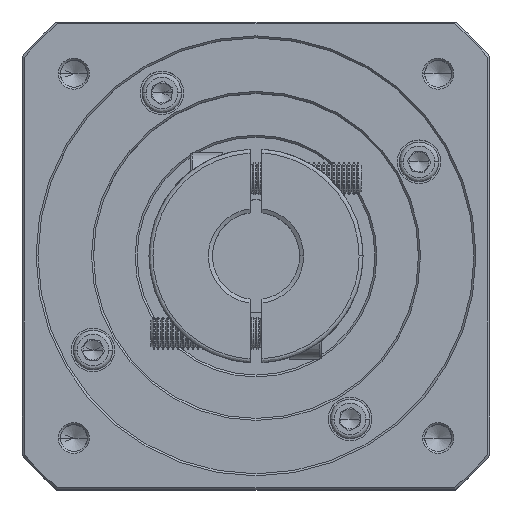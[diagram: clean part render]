
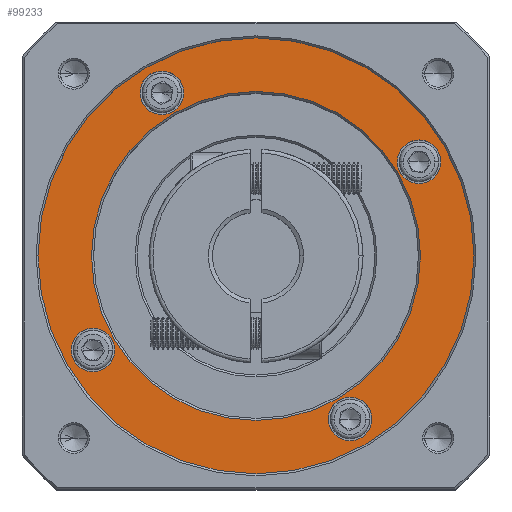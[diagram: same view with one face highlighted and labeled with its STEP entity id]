
A CAD part, top view. The second image highlights one B-rep face of the part: STEP entity #99233.
In plain terms, the highlighted planar face has unit normal (0, 0, 1).
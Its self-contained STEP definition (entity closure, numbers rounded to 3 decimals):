
#681 = DIRECTION ( 'NONE',  ( 0., -1., 0. ) ) ;
#1338 = AXIS2_PLACEMENT_3D ( 'NONE', #59765, #20054, #681 ) ;
#1917 = AXIS2_PLACEMENT_3D ( 'NONE', #53035, #42234, #33128 ) ;
#5070 = CIRCLE ( 'NONE', #116115, 5.5 ) ;
#6128 = EDGE_CURVE ( 'NONE', #34997, #55733, #24645, .T. ) ;
#7466 = CARTESIAN_POINT ( 'NONE',  ( -125.682, 20.191, 88.309 ) ) ;
#8729 = DIRECTION ( 'NONE',  ( 1., 0., 0. ) ) ;
#10575 = DIRECTION ( 'NONE',  ( 0., 0., -1. ) ) ;
#10860 = AXIS2_PLACEMENT_3D ( 'NONE', #68489, #39896, #59772 ) ;
#11759 = EDGE_LOOP ( 'NONE', ( #36474, #70054 ) ) ;
#11885 = VERTEX_POINT ( 'NONE', #21306 ) ;
#12256 = DIRECTION ( 'NONE',  ( 1., 0., 0. ) ) ;
#12496 = CARTESIAN_POINT ( 'NONE',  ( -173.182, 102.463, 88.309 ) ) ;
#13506 = ORIENTED_EDGE ( 'NONE', *, *, #59339, .T. ) ;
#13812 = EDGE_CURVE ( 'NONE', #50221, #72463, #105489, .T. ) ;
#20054 = DIRECTION ( 'NONE',  ( 0., 0., -1. ) ) ;
#21306 = CARTESIAN_POINT ( 'NONE',  ( -190.569, 37.577, 88.309 ) ) ;
#21480 = CARTESIAN_POINT ( 'NONE',  ( -143.932, 61.327, 88.309 ) ) ;
#23016 = ORIENTED_EDGE ( 'NONE', *, *, #98011, .T. ) ;
#23939 = AXIS2_PLACEMENT_3D ( 'NONE', #21480, #72400, #32215 ) ;
#24645 = CIRCLE ( 'NONE', #23939, 41.5 ) ;
#25792 = AXIS2_PLACEMENT_3D ( 'NONE', #39705, #69136, #60023 ) ;
#28422 = DIRECTION ( 'NONE',  ( 1., 0., 0. ) ) ;
#28850 = AXIS2_PLACEMENT_3D ( 'NONE', #118424, #127013, #29467 ) ;
#29467 = DIRECTION ( 'NONE',  ( 1., 0., 0. ) ) ;
#30409 = CARTESIAN_POINT ( 'NONE',  ( -185.069, 37.577, 88.309 ) ) ;
#31440 = FACE_OUTER_BOUND ( 'NONE', #89580, .T. ) ;
#32077 = CARTESIAN_POINT ( 'NONE',  ( -167.682, 102.463, 88.309 ) ) ;
#32215 = DIRECTION ( 'NONE',  ( 0., -1., 0. ) ) ;
#33128 = DIRECTION ( 'NONE',  ( 1., 0., 0. ) ) ;
#33464 = EDGE_CURVE ( 'NONE', #126013, #93206, #106407, .T. ) ;
#34997 = VERTEX_POINT ( 'NONE', #106332 ) ;
#36474 = ORIENTED_EDGE ( 'NONE', *, *, #121390, .T. ) ;
#37431 = VERTEX_POINT ( 'NONE', #40663 ) ;
#37716 = ORIENTED_EDGE ( 'NONE', *, *, #13812, .T. ) ;
#38678 = CIRCLE ( 'NONE', #10860, 5.5 ) ;
#39512 = EDGE_CURVE ( 'NONE', #76555, #37431, #38678, .T. ) ;
#39705 = CARTESIAN_POINT ( 'NONE',  ( -143.932, 61.327, 88.309 ) ) ;
#39896 = DIRECTION ( 'NONE',  ( 0., 0., -1. ) ) ;
#40242 = EDGE_LOOP ( 'NONE', ( #84524, #110229 ) ) ;
#40663 = CARTESIAN_POINT ( 'NONE',  ( -114.682, 20.191, 88.309 ) ) ;
#40717 = FACE_BOUND ( 'NONE', #97266, .T. ) ;
#42234 = DIRECTION ( 'NONE',  ( 0., 0., -1. ) ) ;
#42454 = EDGE_LOOP ( 'NONE', ( #80305, #73933 ) ) ;
#47027 = ORIENTED_EDGE ( 'NONE', *, *, #122658, .T. ) ;
#48497 = DIRECTION ( 'NONE',  ( 0., 0., -1. ) ) ;
#49289 = CIRCLE ( 'NONE', #1338, 41.5 ) ;
#49336 = CARTESIAN_POINT ( 'NONE',  ( -143.932, 102.827, 88.309 ) ) ;
#50221 = VERTEX_POINT ( 'NONE', #53208 ) ;
#51447 = EDGE_CURVE ( 'NONE', #93206, #126013, #116138, .T. ) ;
#52089 = ORIENTED_EDGE ( 'NONE', *, *, #6128, .T. ) ;
#53035 = CARTESIAN_POINT ( 'NONE',  ( -102.796, 85.077, 88.309 ) ) ;
#53208 = CARTESIAN_POINT ( 'NONE',  ( -108.296, 85.077, 88.309 ) ) ;
#53221 = ORIENTED_EDGE ( 'NONE', *, *, #113934, .T. ) ;
#54287 = AXIS2_PLACEMENT_3D ( 'NONE', #30409, #10575, #80901 ) ;
#55733 = VERTEX_POINT ( 'NONE', #49336 ) ;
#55961 = DIRECTION ( 'NONE',  ( 1., 0., 0. ) ) ;
#56383 = DIRECTION ( 'NONE',  ( 1., 0., 0. ) ) ;
#56823 = CARTESIAN_POINT ( 'NONE',  ( -143.932, 61.327, 88.309 ) ) ;
#57669 = PLANE ( 'NONE',  #125257 ) ;
#58465 = DIRECTION ( 'NONE',  ( 1., 0., 0. ) ) ;
#59339 = EDGE_CURVE ( 'NONE', #84976, #67784, #124886, .T. ) ;
#59485 = DIRECTION ( 'NONE',  ( 0., 0., 1. ) ) ;
#59765 = CARTESIAN_POINT ( 'NONE',  ( -143.932, 61.327, 88.309 ) ) ;
#59772 = DIRECTION ( 'NONE',  ( 1., 0., 0. ) ) ;
#60023 = DIRECTION ( 'NONE',  ( 1., 0., 0. ) ) ;
#62445 = CARTESIAN_POINT ( 'NONE',  ( -179.569, 37.577, 88.309 ) ) ;
#63882 = CARTESIAN_POINT ( 'NONE',  ( -88.932, 61.327, 88.309 ) ) ;
#66889 = EDGE_CURVE ( 'NONE', #37431, #76555, #79401, .T. ) ;
#67784 = VERTEX_POINT ( 'NONE', #63882 ) ;
#68489 = CARTESIAN_POINT ( 'NONE',  ( -120.182, 20.191, 88.309 ) ) ;
#69136 = DIRECTION ( 'NONE',  ( 0., 0., 1. ) ) ;
#70054 = ORIENTED_EDGE ( 'NONE', *, *, #100782, .T. ) ;
#70162 = DIRECTION ( 'NONE',  ( 0., 0., -1. ) ) ;
#72400 = DIRECTION ( 'NONE',  ( 0., 0., -1. ) ) ;
#72463 = VERTEX_POINT ( 'NONE', #98294 ) ;
#73933 = ORIENTED_EDGE ( 'NONE', *, *, #33464, .T. ) ;
#74678 = FACE_BOUND ( 'NONE', #11759, .T. ) ;
#76555 = VERTEX_POINT ( 'NONE', #7466 ) ;
#78522 = CARTESIAN_POINT ( 'NONE',  ( -198.932, 61.327, 88.309 ) ) ;
#79401 = CIRCLE ( 'NONE', #93227, 5.5 ) ;
#80305 = ORIENTED_EDGE ( 'NONE', *, *, #51447, .T. ) ;
#80901 = DIRECTION ( 'NONE',  ( 1., 0., 0. ) ) ;
#81011 = CIRCLE ( 'NONE', #25792, 55. ) ;
#82385 = FACE_BOUND ( 'NONE', #95879, .T. ) ;
#83266 = CIRCLE ( 'NONE', #96589, 5.5 ) ;
#84524 = ORIENTED_EDGE ( 'NONE', *, *, #66889, .T. ) ;
#84976 = VERTEX_POINT ( 'NONE', #78522 ) ;
#87254 = CARTESIAN_POINT ( 'NONE',  ( -102.796, 85.077, 88.309 ) ) ;
#87681 = DIRECTION ( 'NONE',  ( 0., 0., -1. ) ) ;
#89580 = EDGE_LOOP ( 'NONE', ( #23016, #13506 ) ) ;
#93206 = VERTEX_POINT ( 'NONE', #115423 ) ;
#93227 = AXIS2_PLACEMENT_3D ( 'NONE', #107717, #48497, #58465 ) ;
#93310 = FACE_BOUND ( 'NONE', #40242, .T. ) ;
#94784 = FACE_BOUND ( 'NONE', #42454, .T. ) ;
#95879 = EDGE_LOOP ( 'NONE', ( #52089, #47027 ) ) ;
#96589 = AXIS2_PLACEMENT_3D ( 'NONE', #105610, #116008, #56383 ) ;
#97266 = EDGE_LOOP ( 'NONE', ( #53221, #37716 ) ) ;
#98011 = EDGE_CURVE ( 'NONE', #67784, #84976, #81011, .T. ) ;
#98294 = CARTESIAN_POINT ( 'NONE',  ( -97.296, 85.077, 88.309 ) ) ;
#99233 = ADVANCED_FACE ( 'NONE', ( #31440, #82385, #40717, #93310, #94784, #74678 ), #57669, .T. ) ;
#100782 = EDGE_CURVE ( 'NONE', #11885, #109013, #83266, .T. ) ;
#105489 = CIRCLE ( 'NONE', #1917, 5.5 ) ;
#105610 = CARTESIAN_POINT ( 'NONE',  ( -185.069, 37.577, 88.309 ) ) ;
#106332 = CARTESIAN_POINT ( 'NONE',  ( -143.932, 19.827, 88.309 ) ) ;
#106407 = CIRCLE ( 'NONE', #28850, 5.5 ) ;
#106576 = CIRCLE ( 'NONE', #54287, 5.5 ) ;
#106943 = AXIS2_PLACEMENT_3D ( 'NONE', #32077, #70162, #12256 ) ;
#107717 = CARTESIAN_POINT ( 'NONE',  ( -120.182, 20.191, 88.309 ) ) ;
#109013 = VERTEX_POINT ( 'NONE', #62445 ) ;
#110229 = ORIENTED_EDGE ( 'NONE', *, *, #39512, .T. ) ;
#113934 = EDGE_CURVE ( 'NONE', #72463, #50221, #5070, .T. ) ;
#115423 = CARTESIAN_POINT ( 'NONE',  ( -162.182, 102.463, 88.309 ) ) ;
#116008 = DIRECTION ( 'NONE',  ( 0., 0., -1. ) ) ;
#116115 = AXIS2_PLACEMENT_3D ( 'NONE', #87254, #87681, #8729 ) ;
#116138 = CIRCLE ( 'NONE', #106943, 5.5 ) ;
#118424 = CARTESIAN_POINT ( 'NONE',  ( -167.682, 102.463, 88.309 ) ) ;
#118634 = CARTESIAN_POINT ( 'NONE',  ( -143.932, 61.327, 88.309 ) ) ;
#121390 = EDGE_CURVE ( 'NONE', #109013, #11885, #106576, .T. ) ;
#122643 = AXIS2_PLACEMENT_3D ( 'NONE', #118634, #59485, #28422 ) ;
#122658 = EDGE_CURVE ( 'NONE', #55733, #34997, #49289, .T. ) ;
#124886 = CIRCLE ( 'NONE', #122643, 55. ) ;
#125257 = AXIS2_PLACEMENT_3D ( 'NONE', #56823, #126714, #55961 ) ;
#126013 = VERTEX_POINT ( 'NONE', #12496 ) ;
#126714 = DIRECTION ( 'NONE',  ( 0., 0., 1. ) ) ;
#127013 = DIRECTION ( 'NONE',  ( 0., 0., -1. ) ) ;
